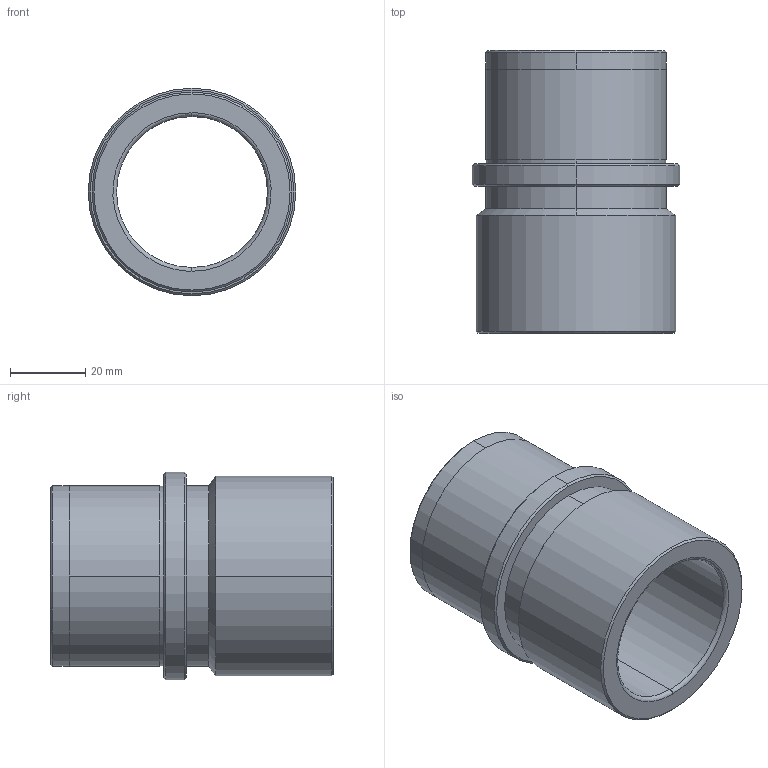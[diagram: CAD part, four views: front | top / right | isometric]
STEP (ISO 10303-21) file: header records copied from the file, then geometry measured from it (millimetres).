
FILE_DESCRIPTION (( 'STEP AP203' ), '1' );
FILE_NAME ('D27_32x75x30.STEP', '2013-12-27T09:27:36', ( 'Ayça' ), ( '' ), 'SwSTEP 2.0', 'SolidWorks 2013', '' );
FILE_SCHEMA (( 'CONFIG_CONTROL_DESIGN' ));
Length unit declared in the file: millimetre
Products named in the file (1): D27_32x75x30
Bounding box: 55 x 75 x 55 mm (x, y, z)
Volume: 57449.7 mm3; surface area: 23986.6 mm2
Topology: 1 solids, 1 shells, 34 faces, 72 edges, 44 vertices
Faces by surface type: cylinder 14, cone 10, plane 6, bspline 4
Entity records: 1399 total; most frequent: CARTESIAN_POINT 587, DIRECTION 166, ORIENTED_EDGE 144, EDGE_CURVE 72, AXIS2_PLACEMENT_3D 71, VERTEX_POINT 44, CIRCLE 40, EDGE_LOOP 40
